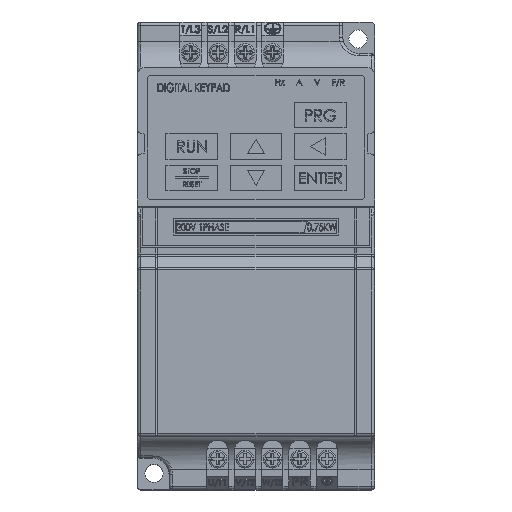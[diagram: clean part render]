
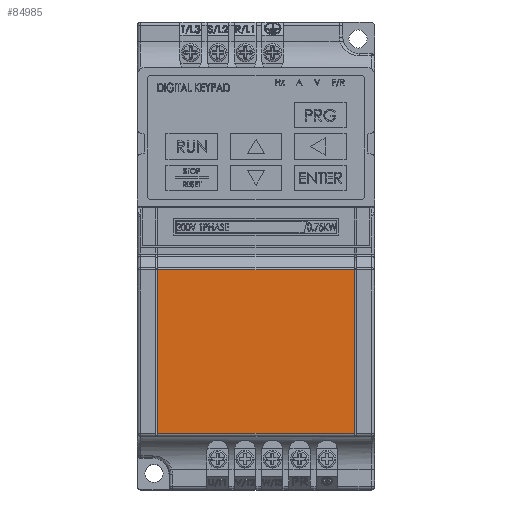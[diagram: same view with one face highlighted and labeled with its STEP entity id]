
A CAD part, top view. The second image highlights one B-rep face of the part: STEP entity #84985.
In plain terms, the highlighted planar face has unit normal (0, 0, 1).
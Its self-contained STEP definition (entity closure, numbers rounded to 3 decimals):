
#17161 = VECTOR ( 'NONE', #17858, 1000. ) ;
#17162 = VECTOR ( 'NONE', #17862, 1000. ) ;
#17163 = VECTOR ( 'NONE', #17867, 1000. ) ;
#17164 = VECTOR ( 'NONE', #17871, 1000. ) ;
#17855 = LINE ( 'NONE', #17857, #17161 ) ;
#17857 = CARTESIAN_POINT ( 'NONE',  ( -36., -4.414, 73. ) ) ;
#17858 = DIRECTION ( 'NONE',  ( -1., 0., 0. ) ) ;
#17859 = LINE ( 'NONE', #17861, #17162 ) ;
#17861 = CARTESIAN_POINT ( 'NONE',  ( 29.9, -55., 73. ) ) ;
#17862 = DIRECTION ( 'NONE',  ( 0., -1., 0. ) ) ;
#17864 = LINE ( 'NONE', #17865, #17163 ) ;
#17865 = CARTESIAN_POINT ( 'NONE',  ( -29.9, -55., 73. ) ) ;
#17867 = DIRECTION ( 'NONE',  ( 0., -1., 0. ) ) ;
#17868 = LINE ( 'NONE', #17870, #17164 ) ;
#17870 = CARTESIAN_POINT ( 'NONE',  ( 36., -54., 73. ) ) ;
#17871 = DIRECTION ( 'NONE',  ( 1., 0., 0. ) ) ;
#38383 = FACE_OUTER_BOUND ( 'NONE', #82248, .T. ) ;
#38386 = AXIS2_PLACEMENT_3D ( 'NONE', #40684, #40686, #40688 ) ;
#40682 = PLANE ( 'NONE',  #38386 ) ;
#40684 = CARTESIAN_POINT ( 'NONE',  ( 36., -71., 73. ) ) ;
#40686 = DIRECTION ( 'NONE',  ( 0., 0., -1. ) ) ;
#40688 = DIRECTION ( 'NONE',  ( -1., 0., 0. ) ) ;
#53867 = CARTESIAN_POINT ( 'NONE',  ( -29.9, -4.414, 73. ) ) ;
#53869 = CARTESIAN_POINT ( 'NONE',  ( -29.9, -54., 73. ) ) ;
#53871 = CARTESIAN_POINT ( 'NONE',  ( 29.9, -54., 73. ) ) ;
#53873 = CARTESIAN_POINT ( 'NONE',  ( 29.9, -4.414, 73. ) ) ;
#71183 = EDGE_CURVE ( 'NONE', #92900, #92897, #17855, .T. ) ;
#71184 = EDGE_CURVE ( 'NONE', #92900, #92899, #17859, .T. ) ;
#71185 = EDGE_CURVE ( 'NONE', #92897, #92898, #17864, .T. ) ;
#71186 = EDGE_CURVE ( 'NONE', #92898, #92899, #17868, .T. ) ;
#82248 = EDGE_LOOP ( 'NONE', ( #82385, #82383, #82384, #82382 ) ) ;
#82382 = ORIENTED_EDGE ( 'NONE', *, *, #71183, .T. ) ;
#82383 = ORIENTED_EDGE ( 'NONE', *, *, #71186, .T. ) ;
#82384 = ORIENTED_EDGE ( 'NONE', *, *, #71184, .F. ) ;
#82385 = ORIENTED_EDGE ( 'NONE', *, *, #71185, .T. ) ;
#84985 = ADVANCED_FACE ( 'NONE', ( #38383 ), #40682, .F. ) ;
#92897 = VERTEX_POINT ( 'NONE', #53867 ) ;
#92898 = VERTEX_POINT ( 'NONE', #53869 ) ;
#92899 = VERTEX_POINT ( 'NONE', #53871 ) ;
#92900 = VERTEX_POINT ( 'NONE', #53873 ) ;
